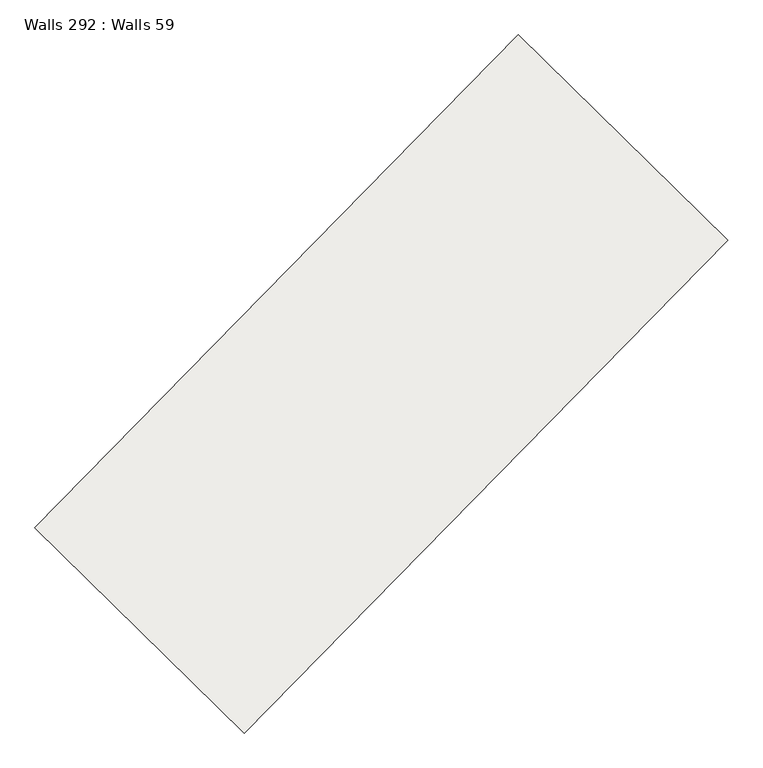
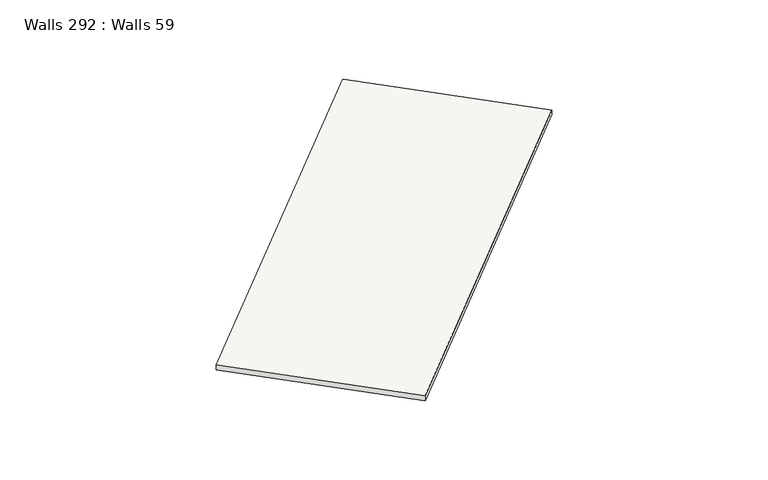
"""IFC4 building model written with IfcOpenShell, lengths in millimetres: slab geometry, Walls 292 : Walls 59."""

from ifc_helpers import new_model, si_unit, frame, origin, place, context, project, spatial, polyline, outline, extrude, source, transform, mapped, element, save


def walls_292_walls_59_ebeb4e56(model_context):
    return source(origin(), model_context, "Body", "SweptSolid", [
        extrude(outline(polyline([(-50.0, 0.0), (50.0, 0.0), (-40.0, -8699.9999996), (-140.0, -8699.9999996), (-50.0, 0.0)])), frame((-24324.6230141, -184132.1677937, 637690.0), z_axis=(-0.713736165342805, 0.7004146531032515, 0.0), x_axis=(0.0, 0.0, 1.0)), (0.0, 0.0, 1.0), 3699.999995),
    ])


if __name__ == "__main__":
    model = new_model("IFC4")
    model_context = context("Model", 3, world=origin())
    ifc_project = project(units=[si_unit("LENGTHUNIT", "METRE", prefix="MILLI")], contexts=[model_context])
    site = spatial("IfcSite", under=ifc_project)
    building = spatial("IfcBuilding", under=site)
    placement = place(None, origin())
    walls_292_walls_59_shape = walls_292_walls_59_ebeb4e56(model_context)
    element("IfcSlab", 1, ObjectType="Walls 292 : Walls 59", at=placement, inside=building, context=model_context, shape_type="MappedRepresentation", body=[
        mapped(walls_292_walls_59_shape, transform((0.0, 0.0, 0.0), x_axis=(1.0, 0.0, 0.0), y_axis=(0.0, 1.0, 0.0), z_axis=(0.0, 0.0, 1.0))),
    ])
    save(model, "model.ifc")
